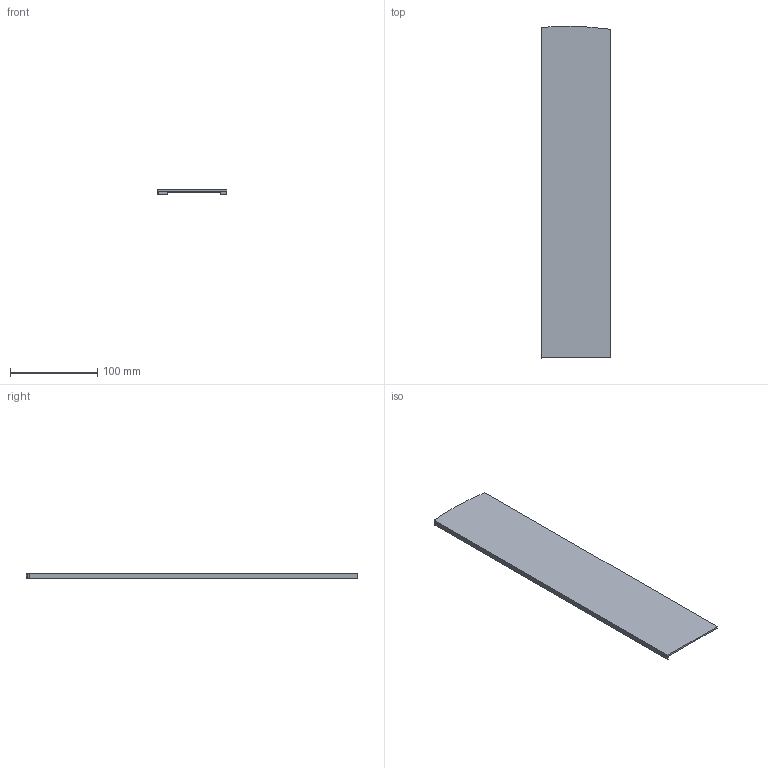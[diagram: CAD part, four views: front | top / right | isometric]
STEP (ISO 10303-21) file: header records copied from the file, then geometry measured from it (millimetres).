
FILE_DESCRIPTION(/* description */ ('TF-3621 endcap right with covercap for stairway, aluminum mill finish'),/* implementation_level */ '2;1');
FILE_NAME(/* name */ '1036214611x.stp',/* time_stamp */ '2025-11-13T10:33:48+01:00',/* author */ ('nethmini'),/* organization */ (''),/* preprocessor_version */ 'ST-DEVELOPER v19.2',/* originating_system */ 'Autodesk Inventor 2024',/* authorisation */ '');
FILE_SCHEMA (('AUTOMOTIVE_DESIGN { 1 0 10303 214 3 1 1 }'));
Length unit declared in the file: millimetre
Products named in the file (1): 10362146110
Bounding box: 80 x 379.67 x 6 mm (x, y, z)
Volume: 62194.6 mm3; surface area: 65772.7 mm2
Topology: 1 solids, 1 shells, 525 faces, 1367 edges, 910 vertices
Faces by surface type: plane 296, bspline 223, cylinder 6
Entity records: 17895 total; most frequent: CARTESIAN_POINT 6423, ORIENTED_EDGE 2734, DIRECTION 1539, EDGE_CURVE 1367, VERTEX_POINT 910, LINE 909, VECTOR 909, EDGE_LOOP 591
